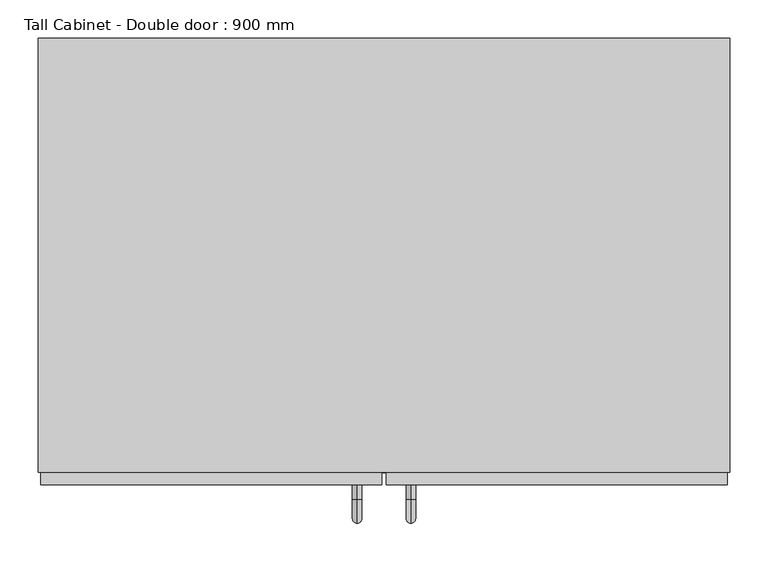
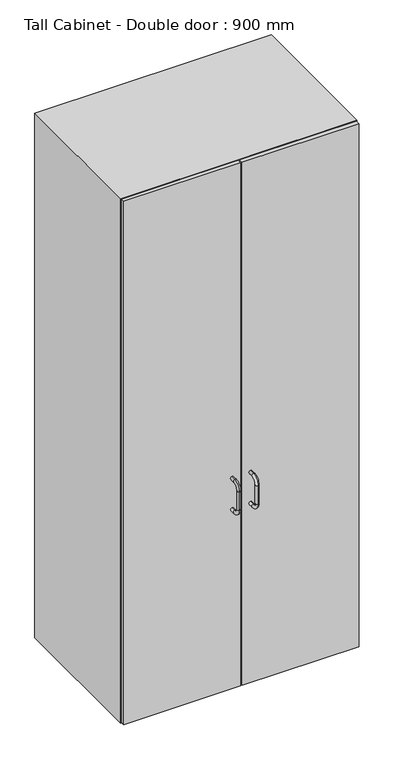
"""IFC4 building model written with IfcOpenShell, lengths in millimetres: furniture geometry, Tall Cabinet - Double door : 900 mm."""

from ifc_helpers import new_model, si_unit, point, frame, origin, place, context, project, spatial, polyline, circle_curve, ellipse_curve, trimmed, outline, extrude, source, transform, mapped, element, save
from ifc_brep_helpers import plane_surface, cylinder_surface, revolved_surface, advanced_brep


def tall_cabinet_double_door_900_mm_12ca9f50(model_context):
    return source(origin(), model_context, "Body", "SolidModel", [
        extrude(outline(polyline([(47.7003264, -581.0), (47.7003264, -565.0), (491.7003264, -565.0), (491.7003264, -581.0), (47.7003264, -581.0)])), frame((0.0, 0.0, 167.0), z_axis=(0.0, 0.0, 1.0), x_axis=(1.0, 0.0, 0.0)), (0.0, 0.0, 1.0), 2102.0),
        extrude(outline(polyline([(41.7003264, -581.0), (-402.2996736, -581.0), (-402.2996736, -565.0), (41.7003264, -565.0), (41.7003264, -581.0)])), frame((0.0, 0.0, 167.0), z_axis=(0.0, 0.0, 1.0), x_axis=(1.0, 0.0, 0.0)), (0.0, 0.0, 1.0), 2102.0),
        advanced_brep(
        [(79.7003264, -581.0, 1020.25), (79.7003264, -581.0, 1007.75), (79.7003264, -599.75, 1007.75), (79.7003264, -599.75, 1020.25), (79.7003264, -618.5, 989.0), (79.7003264, -631.0, 989.0), (79.7003264, -618.5, 914.0), (79.7003264, -631.0, 914.0), (79.7003264, -599.75, 895.25), (79.7003264, -599.75, 882.75), (79.7003264, -581.0, 882.75), (79.7003264, -581.0, 895.25)],
        [
            (0, 1, circle_curve(frame((79.7003264, -581.0, 1014.0), z_axis=(0.0, 1.0, 0.0), x_axis=(0.0, 0.0, -1.0)), 6.25)),
            (1, 0, circle_curve(frame((79.7003264, -581.0, 1014.0), z_axis=(0.0, 1.0, 0.0), x_axis=(0.0, 0.0, -1.0)), 6.25)),
            (1, 2),
            (2, 3, circle_curve(frame((79.7003264, -599.75, 1014.0), z_axis=(0.0, 1.0, 0.0), x_axis=(0.0, 0.0, -1.0)), 6.25)),
            (3, 0),
            (3, 2, circle_curve(frame((79.7003264, -599.75, 1014.0), z_axis=(0.0, 1.0, 0.0), x_axis=(0.0, 0.0, -1.0)), 6.25)),
            (4, 5, circle_curve(frame((79.7003264, -624.75, 989.0), z_axis=(0.0, 0.0, 1.0), x_axis=(0.0, 1.0, 0.0)), 6.25)),
            (5, 3, circle_curve(frame((79.7003264, -599.75, 989.0), z_axis=(-1.0, 0.0, 0.0), x_axis=(0.0, 0.0, 1.0)), 31.25)),
            (2, 4, circle_curve(frame((79.7003264, -599.75, 989.0), z_axis=(1.0, 0.0, 0.0), x_axis=(0.0, 0.0, 1.0)), 18.75)),
            (5, 4, circle_curve(frame((79.7003264, -624.75, 989.0), z_axis=(0.0, 0.0, 1.0), x_axis=(0.0, 1.0, 0.0)), 6.25)),
            (4, 6),
            (6, 7, circle_curve(frame((79.7003264, -624.75, 914.0), z_axis=(0.0, 0.0, 1.0), x_axis=(0.0, 1.0, 0.0)), 6.25)),
            (7, 5),
            (7, 6, circle_curve(frame((79.7003264, -624.75, 914.0), z_axis=(0.0, 0.0, 1.0), x_axis=(0.0, 1.0, 0.0)), 6.25)),
            (8, 9, circle_curve(frame((79.7003264, -599.75, 889.0), z_axis=(0.0, -1.0, 0.0), x_axis=(0.0, 0.0, 1.0)), 6.25)),
            (9, 7, circle_curve(frame((79.7003264, -599.75, 914.0), z_axis=(-1.0, 0.0, 0.0), x_axis=(0.0, -1.0, 0.0)), 31.25)),
            (6, 8, circle_curve(frame((79.7003264, -599.75, 914.0), z_axis=(1.0, 0.0, 0.0), x_axis=(0.0, -1.0, 0.0)), 18.75)),
            (9, 8, circle_curve(frame((79.7003264, -599.75, 889.0), z_axis=(0.0, -1.0, 0.0), x_axis=(0.0, 0.0, 1.0)), 6.25)),
            (10, 11, circle_curve(frame((79.7003264, -581.0, 889.0), z_axis=(0.0, 1.0, 0.0), x_axis=(0.0, 0.0, 1.0)), 6.25)),
            (11, 10, circle_curve(frame((79.7003264, -581.0, 889.0), z_axis=(0.0, 1.0, 0.0), x_axis=(0.0, 0.0, 1.0)), 6.25)),
            (8, 11),
            (10, 9),
        ],
        [
            plane_surface(frame((79.7003264, -581.0, 1014.0), z_axis=(0.0, 1.0, 0.0), x_axis=(-1.0, 0.0, 0.0))),
            cylinder_surface(frame((79.7003264, -581.0, 1014.0), z_axis=(0.0, 1.0, 0.0), x_axis=(0.0, 0.0, -1.0)), 6.25),
            revolved_surface(trimmed(ellipse_curve(frame((79.7003264, -599.75, 1014.0), z_axis=(0.0, -1.0, 0.0), x_axis=(0.0, 0.0, -1.0)), 6.25, 6.25), [point((79.7003264, -599.75, 1020.25))], [point((79.7003264, -599.75, 1007.75))], True, "CARTESIAN"), (79.7003264, -599.75, 989.0), (-1.0, 0.0, 0.0)),
            revolved_surface(trimmed(ellipse_curve(frame((79.7003264, -599.75, 1014.0), z_axis=(0.0, -1.0, 0.0), x_axis=(0.0, 0.0, -1.0)), 6.25, 6.25), [point((79.7003264, -599.75, 1007.75))], [point((79.7003264, -599.75, 1020.25))], True, "CARTESIAN"), (79.7003264, -599.75, 989.0), (-1.0, 0.0, 0.0)),
            cylinder_surface(frame((79.7003264, -624.75, 989.0), z_axis=(0.0, 0.0, 1.0), x_axis=(0.0, 1.0, 0.0)), 6.25),
            revolved_surface(trimmed(ellipse_curve(frame((79.7003264, -624.75, 914.0), z_axis=(0.0, 0.0, -1.0), x_axis=(0.0, 1.0, 0.0)), 6.25, 6.25), [point((79.7003264, -631.0, 914.0))], [point((79.7003264, -618.5, 914.0))], True, "CARTESIAN"), (79.7003264, -599.75, 914.0), (-1.0, 0.0, 0.0)),
            revolved_surface(trimmed(ellipse_curve(frame((79.7003264, -624.75, 914.0), z_axis=(0.0, 0.0, -1.0), x_axis=(0.0, 1.0, 0.0)), 6.25, 6.25), [point((79.7003264, -618.5, 914.0))], [point((79.7003264, -631.0, 914.0))], True, "CARTESIAN"), (79.7003264, -599.75, 914.0), (-1.0, 0.0, 0.0)),
            plane_surface(frame((79.7003264, -581.0, 889.0), z_axis=(0.0, 1.0, 0.0), x_axis=(-1.0, 0.0, 0.0))),
            cylinder_surface(frame((79.7003264, -599.75, 889.0), z_axis=(0.0, -1.0, 0.0), x_axis=(0.0, 0.0, 1.0)), 6.25),
        ],
        [
            (0, [[1, 2]]),
            (1, [[3, 4, 5, -2]]),
            (1, [[-5, 6, -3, -1]]),
            (2, [[7, 8, -4, 9]]),
            (3, [[10, -9, -6, -8]]),
            (4, [[11, 12, 13, -7]]),
            (4, [[-13, 14, -11, -10]]),
            (5, [[15, 16, -12, 17]]),
            (6, [[18, -17, -14, -16]]),
            (7, [[19, 20]]),
            (8, [[21, -19, 22, -15]]),
            (8, [[-22, -20, -21, -18]]),
        ],
    ),
        advanced_brep(
        [(9.7003264, -581.0, 1020.25), (9.7003264, -581.0, 1007.75), (9.7003264, -599.75, 1020.25), (9.7003264, -599.75, 1007.75), (9.7003264, -618.5, 989.0), (9.7003264, -631.0, 989.0), (9.7003264, -631.0, 914.0), (9.7003264, -618.5, 914.0), (9.7003264, -599.75, 895.25), (9.7003264, -599.75, 882.75), (9.7003264, -581.0, 882.75), (9.7003264, -581.0, 895.25)],
        [
            (0, 1, circle_curve(frame((9.7003264, -581.0, 1014.0), z_axis=(0.0, 1.0, 0.0), x_axis=(0.0, 0.0, -1.0)), 6.25)),
            (1, 0, circle_curve(frame((9.7003264, -581.0, 1014.0), z_axis=(0.0, 1.0, 0.0), x_axis=(0.0, 0.0, -1.0)), 6.25)),
            (0, 2),
            (2, 3, circle_curve(frame((9.7003264, -599.75, 1014.0), z_axis=(0.0, 1.0, 0.0), x_axis=(0.0, 0.0, -1.0)), 6.25)),
            (3, 1),
            (3, 2, circle_curve(frame((9.7003264, -599.75, 1014.0), z_axis=(0.0, 1.0, 0.0), x_axis=(0.0, 0.0, -1.0)), 6.25)),
            (4, 3, circle_curve(frame((9.7003264, -599.75, 989.0), z_axis=(-1.0, 0.0, 0.0), x_axis=(0.0, 0.0, 1.0)), 18.75)),
            (2, 5, circle_curve(frame((9.7003264, -599.75, 989.0), z_axis=(1.0, 0.0, 0.0), x_axis=(0.0, 0.0, 1.0)), 31.25)),
            (5, 4, circle_curve(frame((9.7003264, -624.75, 989.0), z_axis=(0.0, 0.0, 1.0), x_axis=(0.0, 1.0, 0.0)), 6.25)),
            (4, 5, circle_curve(frame((9.7003264, -624.75, 989.0), z_axis=(0.0, 0.0, 1.0), x_axis=(0.0, 1.0, 0.0)), 6.25)),
            (5, 6),
            (6, 7, circle_curve(frame((9.7003264, -624.75, 914.0), z_axis=(0.0, 0.0, 1.0), x_axis=(0.0, 1.0, 0.0)), 6.25)),
            (7, 4),
            (7, 6, circle_curve(frame((9.7003264, -624.75, 914.0), z_axis=(0.0, 0.0, 1.0), x_axis=(0.0, 1.0, 0.0)), 6.25)),
            (8, 7, circle_curve(frame((9.7003264, -599.75, 914.0), z_axis=(-1.0, 0.0, 0.0), x_axis=(0.0, -1.0, 0.0)), 18.75)),
            (6, 9, circle_curve(frame((9.7003264, -599.75, 914.0), z_axis=(1.0, 0.0, 0.0), x_axis=(0.0, -1.0, 0.0)), 31.25)),
            (9, 8, circle_curve(frame((9.7003264, -599.75, 889.0), z_axis=(0.0, -1.0, 0.0), x_axis=(0.0, 0.0, 1.0)), 6.25)),
            (8, 9, circle_curve(frame((9.7003264, -599.75, 889.0), z_axis=(0.0, -1.0, 0.0), x_axis=(0.0, 0.0, 1.0)), 6.25)),
            (10, 11, circle_curve(frame((9.7003264, -581.0, 889.0), z_axis=(0.0, 1.0, 0.0), x_axis=(0.0, 0.0, 1.0)), 6.25)),
            (11, 10, circle_curve(frame((9.7003264, -581.0, 889.0), z_axis=(0.0, 1.0, 0.0), x_axis=(0.0, 0.0, 1.0)), 6.25)),
            (9, 10),
            (11, 8),
        ],
        [
            plane_surface(frame((9.7003264, -581.0, 1014.0), z_axis=(0.0, 1.0, 0.0), x_axis=(1.0, 0.0, 0.0))),
            cylinder_surface(frame((9.7003264, -581.0, 1014.0), z_axis=(0.0, 1.0, 0.0), x_axis=(0.0, 0.0, -1.0)), 6.25),
            revolved_surface(trimmed(ellipse_curve(frame((9.7003264, -599.75, 1014.0), z_axis=(0.0, 1.0, 0.0), x_axis=(0.0, 0.0, -1.0)), 6.25, 6.25), [point((9.7003264, -599.75, 1020.25))], [point((9.7003264, -599.75, 1007.75))], True, "CARTESIAN"), (9.7003264, -599.75, 989.0), (1.0, 0.0, 0.0)),
            revolved_surface(trimmed(ellipse_curve(frame((9.7003264, -599.75, 1014.0), z_axis=(0.0, 1.0, 0.0), x_axis=(0.0, 0.0, -1.0)), 6.25, 6.25), [point((9.7003264, -599.75, 1007.75))], [point((9.7003264, -599.75, 1020.25))], True, "CARTESIAN"), (9.7003264, -599.75, 989.0), (1.0, 0.0, 0.0)),
            cylinder_surface(frame((9.7003264, -624.75, 989.0), z_axis=(0.0, 0.0, 1.0), x_axis=(0.0, 1.0, 0.0)), 6.25),
            revolved_surface(trimmed(ellipse_curve(frame((9.7003264, -624.75, 914.0), z_axis=(0.0, 0.0, 1.0), x_axis=(0.0, 1.0, 0.0)), 6.25, 6.25), [point((9.7003264, -631.0, 914.0))], [point((9.7003264, -618.5, 914.0))], True, "CARTESIAN"), (9.7003264, -599.75, 914.0), (1.0, 0.0, 0.0)),
            revolved_surface(trimmed(ellipse_curve(frame((9.7003264, -624.75, 914.0), z_axis=(0.0, 0.0, 1.0), x_axis=(0.0, 1.0, 0.0)), 6.25, 6.25), [point((9.7003264, -618.5, 914.0))], [point((9.7003264, -631.0, 914.0))], True, "CARTESIAN"), (9.7003264, -599.75, 914.0), (1.0, 0.0, 0.0)),
            plane_surface(frame((9.7003264, -581.0, 889.0), z_axis=(0.0, 1.0, 0.0), x_axis=(1.0, 0.0, 0.0))),
            cylinder_surface(frame((9.7003264, -599.75, 889.0), z_axis=(0.0, -1.0, 0.0), x_axis=(0.0, 0.0, 1.0)), 6.25),
        ],
        [
            (0, [[1, 2]]),
            (1, [[-1, 3, 4, 5]]),
            (1, [[-2, -5, 6, -3]]),
            (2, [[7, -4, 8, 9]]),
            (3, [[-8, -6, -7, 10]]),
            (4, [[-9, 11, 12, 13]]),
            (4, [[-10, -13, 14, -11]]),
            (5, [[15, -12, 16, 17]]),
            (6, [[-16, -14, -15, 18]]),
            (7, [[19, 20]]),
            (8, [[-17, 21, -20, 22]]),
            (8, [[-18, -22, -19, -21]]),
        ],
    ),
        extrude(outline(polyline([(478.7003264, -16.0), (-389.2996736, -16.0), (-389.2996736, -10.0), (478.7003264, -10.0), (478.7003264, -16.0)])), frame((0.0, 0.0, 180.0), z_axis=(0.0, 0.0, 1.0), x_axis=(1.0, 0.0, 0.0)), (0.0, 0.0, 1.0), 2076.0),
        extrude(outline(polyline([(2272.0, 494.7003264), (2272.0, -405.2996736), (164.0, -405.2996736), (164.0, 494.7003264), (2272.0, 494.7003264)]), holes=[polyline([(2256.0, 478.7003264), (180.0, 478.7003264), (180.0, -389.2996736), (2256.0, -389.2996736), (2256.0, 478.7003264)])]), frame((0.0, -565.0, 0.0), z_axis=(0.0, 1.0, 0.0), x_axis=(0.0, 0.0, 1.0)), (0.0, 0.0, 1.0), 565.0),
    ])


if __name__ == "__main__":
    model = new_model("IFC4")
    model_context = context("Model", 3, world=origin())
    ifc_project = project(units=[si_unit("LENGTHUNIT", "METRE", prefix="MILLI")], contexts=[model_context])
    site = spatial("IfcSite", under=ifc_project)
    building = spatial("IfcBuilding", under=site)
    placement = place(None, origin())
    tall_cabinet_double_door_900_mm_shape = tall_cabinet_double_door_900_mm_12ca9f50(model_context)
    element("IfcFurniture", 1, ObjectType="Tall Cabinet - Double door : 900 mm", at=placement, inside=building, context=model_context, shape_type="MappedRepresentation", body=[
        mapped(tall_cabinet_double_door_900_mm_shape, transform((0.0, 0.0, 0.0), x_axis=(1.0, 0.0, 0.0), y_axis=(0.0, 1.0, 0.0), z_axis=(0.0, 0.0, 1.0))),
    ])
    save(model, "model.ifc")
